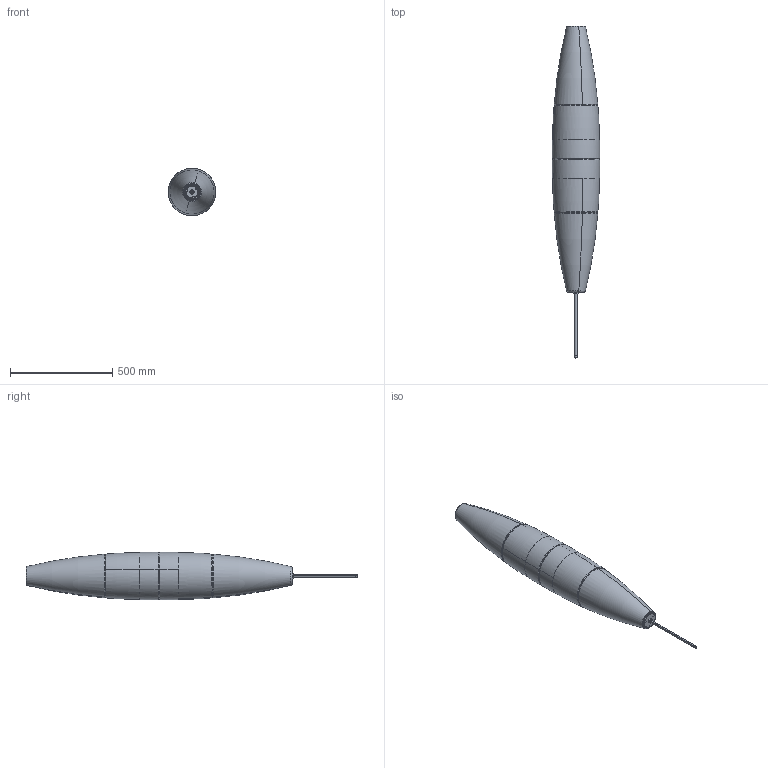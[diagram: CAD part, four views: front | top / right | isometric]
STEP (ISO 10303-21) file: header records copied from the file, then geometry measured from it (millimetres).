
FILE_DESCRIPTION (( 'STEP AP203' ), '1' );
FILE_NAME ('040_MONO_OS_PL_3D.STEP', '2025-04-15T11:53:01', ( '' ), ( '' ), 'SwSTEP 2.0', 'SolidWorks 2024', '' );
FILE_SCHEMA (( 'CONFIG_CONTROL_DESIGN' ));
Length unit declared in the file: millimetre
Products named in the file (1): 040_MONO_OS_PL_3D
Bounding box: 231.38 x 1623.85 x 231.38 mm (x, y, z)
Volume: 2446821.6 mm3; surface area: 1631417 mm2
Topology: 3 solids, 3 shells, 280 faces, 676 edges, 398 vertices
Faces by surface type: bspline 100, cylinder 62, cone 43, torus 41, plane 29, sphere 5
Entity records: 47672 total; most frequent: CARTESIAN_POINT 41938, ORIENTED_EDGE 1318, DIRECTION 1029, EDGE_CURVE 659, AXIS2_PLACEMENT_3D 447, VERTEX_POINT 398, EDGE_LOOP 301, ADVANCED_FACE 280
